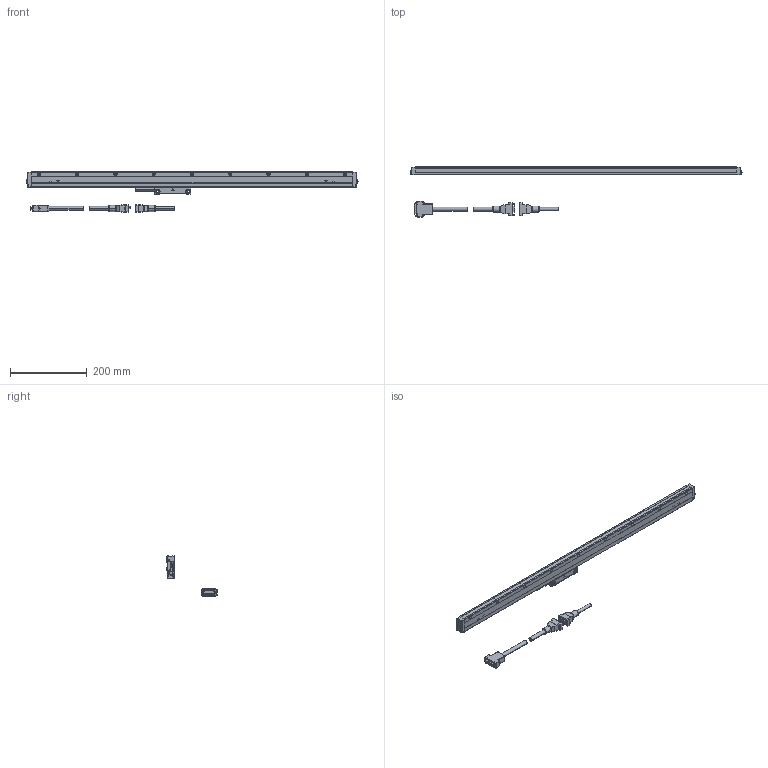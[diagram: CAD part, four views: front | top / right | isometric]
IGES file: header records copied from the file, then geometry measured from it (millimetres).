
Start section: Elysium IGES Interface
Global section: file name: 73H\\Utsu119s\kiyo_cad\data\3D\AT211\HP掲載用_201803\多点固定\AT211-700A.igs; native system: Creo Elements/Direct Modeling 18.1B  29-Sep-2012; preprocessor: Creo Element/Direct IGES_3D V2.2; author: Unknown; organization: Unknown; date: 20180315.100216; units: millimetre
Bounding box: 867.12 x 130.6 x 105 mm (x, y, z)
Volume: 757179.9 mm3; surface area: 150379 mm2
Topology: 5 solids, 5 shells, 1075 faces, 2586 edges, 1524 vertices
Faces by surface type: bspline 1075
